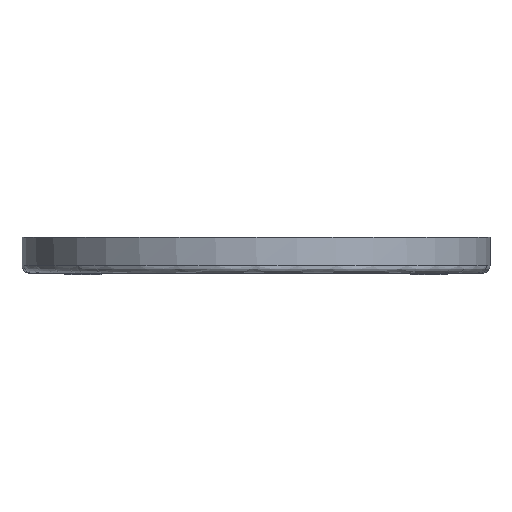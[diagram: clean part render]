
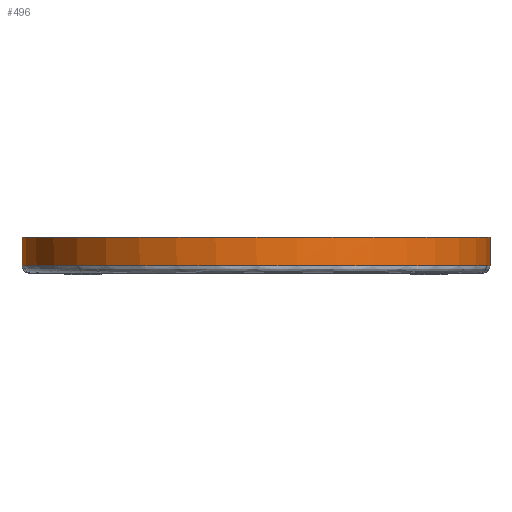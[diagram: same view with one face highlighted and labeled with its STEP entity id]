
A CAD part, front view. The second image highlights one B-rep face of the part: STEP entity #496.
In plain terms, the highlighted cylindrical face has radius 22 mm (diameter 44 mm), a partial arc.
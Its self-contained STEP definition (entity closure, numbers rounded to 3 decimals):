
#26 = VERTEX_POINT ( 'NONE', #4414 ) ;
#164 = CARTESIAN_POINT ( 'NONE',  ( 22., 0., 0. ) ) ;
#468 = DIRECTION ( 'NONE',  ( 0., 0., 1. ) ) ;
#496 = ADVANCED_FACE ( 'NONE', ( #4503 ), #5990, .T. ) ;
#843 = VERTEX_POINT ( 'NONE', #2155 ) ;
#943 = VERTEX_POINT ( 'NONE', #3116 ) ;
#1160 = ORIENTED_EDGE ( 'NONE', *, *, #3422, .F. ) ;
#1199 = CARTESIAN_POINT ( 'NONE',  ( 0., 0., 0. ) ) ;
#1328 = CARTESIAN_POINT ( 'NONE',  ( 22., 0., -2.7 ) ) ;
#1499 = LINE ( 'NONE', #4906, #7846 ) ;
#1633 = CARTESIAN_POINT ( 'NONE',  ( 0., 0., 0. ) ) ;
#1753 = VERTEX_POINT ( 'NONE', #164 ) ;
#1982 = ORIENTED_EDGE ( 'NONE', *, *, #3121, .T. ) ;
#2036 = EDGE_CURVE ( 'NONE', #843, #943, #5861, .T. ) ;
#2155 = CARTESIAN_POINT ( 'NONE',  ( -22., 0., -2.7 ) ) ;
#2253 = DIRECTION ( 'NONE',  ( 1., 0., 0. ) ) ;
#2290 = CARTESIAN_POINT ( 'NONE',  ( 0., 0., -2.7 ) ) ;
#2448 = DIRECTION ( 'NONE',  ( 1., 0., 0. ) ) ;
#2529 = DIRECTION ( 'NONE',  ( 0., 0., 1. ) ) ;
#2921 = DIRECTION ( 'NONE',  ( 1., 0., 0. ) ) ;
#3004 = CARTESIAN_POINT ( 'NONE',  ( -22., 0., 0. ) ) ;
#3116 = CARTESIAN_POINT ( 'NONE',  ( -22., 0., 0. ) ) ;
#3121 = EDGE_CURVE ( 'NONE', #26, #7519, #4564, .T. ) ;
#3422 = EDGE_CURVE ( 'NONE', #943, #1753, #6078, .T. ) ;
#3600 = ORIENTED_EDGE ( 'NONE', *, *, #2036, .F. ) ;
#3732 = DIRECTION ( 'NONE',  ( 0., 0., 1. ) ) ;
#3923 = ORIENTED_EDGE ( 'NONE', *, *, #7969, .T. ) ;
#3982 = CIRCLE ( 'NONE', #8184, 22. ) ;
#4191 = VECTOR ( 'NONE', #8084, 1000. ) ;
#4414 = CARTESIAN_POINT ( 'NONE',  ( -22., -0.136, -2.7 ) ) ;
#4503 = FACE_OUTER_BOUND ( 'NONE', #7160, .T. ) ;
#4564 = CIRCLE ( 'NONE', #6012, 22. ) ;
#4906 = CARTESIAN_POINT ( 'NONE',  ( 22., 0., 0. ) ) ;
#5861 = LINE ( 'NONE', #3004, #4191 ) ;
#5990 = CYLINDRICAL_SURFACE ( 'NONE', #6602, 22. ) ;
#6012 = AXIS2_PLACEMENT_3D ( 'NONE', #2290, #6738, #2921 ) ;
#6071 = DIRECTION ( 'NONE',  ( 0., 0., 1. ) ) ;
#6078 = CIRCLE ( 'NONE', #7137, 22. ) ;
#6352 = CARTESIAN_POINT ( 'NONE',  ( 0., 0., -2.7 ) ) ;
#6380 = EDGE_CURVE ( 'NONE', #843, #26, #3982, .T. ) ;
#6602 = AXIS2_PLACEMENT_3D ( 'NONE', #1199, #3732, #2448 ) ;
#6738 = DIRECTION ( 'NONE',  ( 0., 0., 1. ) ) ;
#6986 = DIRECTION ( 'NONE',  ( 1., 0., 0. ) ) ;
#7010 = ORIENTED_EDGE ( 'NONE', *, *, #6380, .T. ) ;
#7137 = AXIS2_PLACEMENT_3D ( 'NONE', #1633, #6071, #2253 ) ;
#7160 = EDGE_LOOP ( 'NONE', ( #3600, #7010, #1982, #3923, #1160 ) ) ;
#7519 = VERTEX_POINT ( 'NONE', #1328 ) ;
#7846 = VECTOR ( 'NONE', #468, 1000. ) ;
#7969 = EDGE_CURVE ( 'NONE', #7519, #1753, #1499, .T. ) ;
#8084 = DIRECTION ( 'NONE',  ( 0., 0., 1. ) ) ;
#8184 = AXIS2_PLACEMENT_3D ( 'NONE', #6352, #2529, #6986 ) ;
